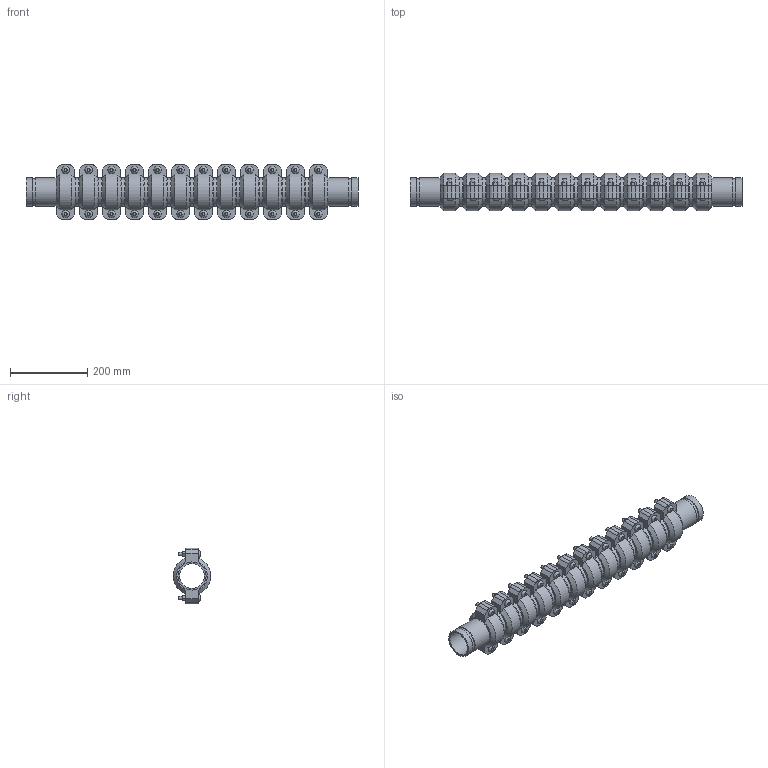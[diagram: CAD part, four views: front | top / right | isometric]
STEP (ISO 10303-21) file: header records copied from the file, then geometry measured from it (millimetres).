
FILE_DESCRIPTION(/* description */ ('VIC SS EXPANSION JOINT 12 COUPLINGS NEUTRAL STYLE 155P (OGS) (POTABLE WATER) ','CAx-IF Rec.Pracs.---Representation and Presentation of Product Manufacturing Information (PMI)---4.0---2014-10-13'),/* implementation_level */ '2;1');
FILE_NAME(/* name */ 'C:\Users\kkamble\AppData\Roaming\Autodesk\ApplicationPlugins\Victaulic.Temp\A871\Victaulic_SS_Expansion Joint_Neutral_12 Couplings_Style 155P (OGS)-Potable Water_12 Coup_Neut_2.5 (65).stp',/* time_stamp */ '2021-07-16T16:29:42+06:00',/* author */ ('kkamble'),/* organization */ ('Victaulic'),/* preprocessor_version */ 'ST-DEVELOPER v17.2',/* originating_system */ 'Autodesk Inventor 2019',/* authorisation */ '');
FILE_SCHEMA (('AP242_MANAGED_MODEL_BASED_3D_ENGINEERING_MIM_LF { 1 0 10303 442 1 1 4 }'));
Length unit declared in the file: inch
Products named in the file (4): 155P-02.5; Nipple-02.5; Nipple-02.5_1; 075-02.5
Assembly tree (25 placements, depth 2):
  155P-02.5
    Nipple-02.5  x2
    Nipple-02.5_1  x11
    075-02.5  x12
Bounding box: 860.55 x 98.22 x 144.27 mm (x, y, z)
Volume: 3348149.4 mm3; surface area: 931959.8 mm2
Topology: 25 solids, 49 shells, 840 faces, 1986 edges, 1392 vertices
Faces by surface type: plane 510, cylinder 258, cone 48, bspline 24
Full cylindrical faces by diameter (mm): 9.525 x48, 11.43 x24, 63.475 x13, 66.675 x12, 69.088 x26, 73.025 x63
Entity records: 2913 total; most frequent: CARTESIAN_POINT 509, DIRECTION 493, ORIENTED_EDGE 386, AXIS2_PLACEMENT_3D 200, EDGE_CURVE 193, VERTEX_POINT 138, EDGE_LOOP 107, LINE 93
